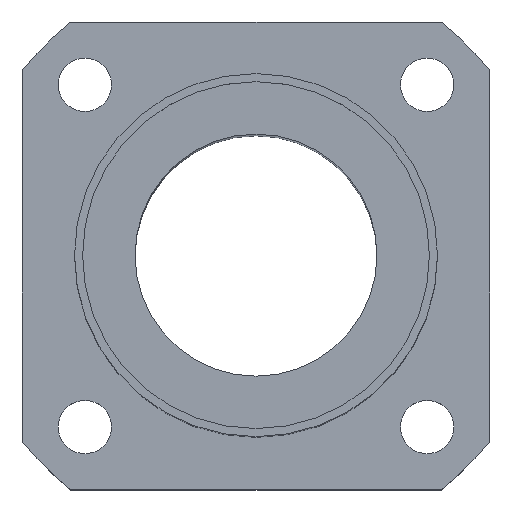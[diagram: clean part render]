
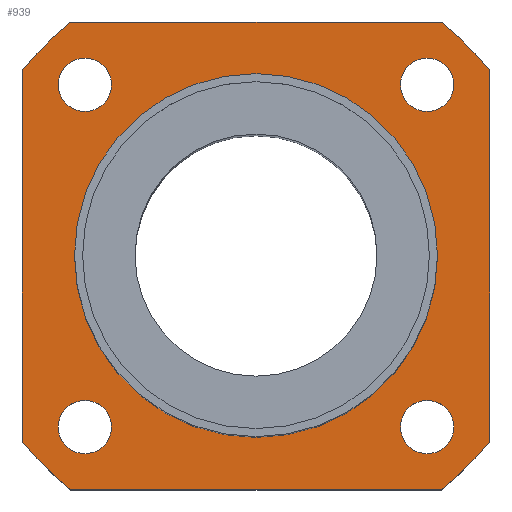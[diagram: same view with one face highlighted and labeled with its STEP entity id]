
A CAD part, top view. The second image highlights one B-rep face of the part: STEP entity #939.
In plain terms, the highlighted planar face has unit normal (0, 0, 1).
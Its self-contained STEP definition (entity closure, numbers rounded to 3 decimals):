
#49=CARTESIAN_POINT('',(-25.08,9.934,66.5));
#50=VERTEX_POINT('',#49);
#59=CARTESIAN_POINT('',(19.92,9.934,66.5));
#60=VERTEX_POINT('',#59);
#61=CARTESIAN_POINT('',(-2.58,9.934,66.5));
#62=DIRECTION('',(0.0,0.0,1.0));
#63=DIRECTION('',(-1.0,0.0,0.0));
#64=AXIS2_PLACEMENT_3D('',#61,#62,#63);
#65=CIRCLE('',#64,22.5);
#66=EDGE_CURVE('',#50,#60,#65,.T.);
#259=CARTESIAN_POINT('',(-20.493,31.147,66.5));
#260=VERTEX_POINT('',#259);
#269=CARTESIAN_POINT('',(-27.093,31.147,66.5));
#270=VERTEX_POINT('',#269);
#271=CARTESIAN_POINT('',(-23.793,31.147,66.5));
#272=DIRECTION('',(0.0,0.0,-1.0));
#273=DIRECTION('',(1.0,0.0,0.0));
#274=AXIS2_PLACEMENT_3D('',#271,#272,#273);
#275=CIRCLE('',#274,3.3);
#276=EDGE_CURVE('',#270,#260,#275,.T.);
#343=CARTESIAN_POINT('',(18.634,27.847,66.5));
#344=VERTEX_POINT('',#343);
#353=CARTESIAN_POINT('',(18.634,34.447,66.5));
#354=VERTEX_POINT('',#353);
#355=CARTESIAN_POINT('',(18.634,31.147,66.5));
#356=DIRECTION('',(0.0,0.0,-1.0));
#357=DIRECTION('',(0.0,-1.0,0.0));
#358=AXIS2_PLACEMENT_3D('',#355,#356,#357);
#359=CIRCLE('',#358,3.3);
#360=EDGE_CURVE('',#354,#344,#359,.T.);
#427=CARTESIAN_POINT('',(15.334,-11.279,66.5));
#428=VERTEX_POINT('',#427);
#437=CARTESIAN_POINT('',(21.934,-11.279,66.5));
#438=VERTEX_POINT('',#437);
#439=CARTESIAN_POINT('',(18.634,-11.279,66.5));
#440=DIRECTION('',(0.0,0.0,-1.0));
#441=DIRECTION('',(-1.0,0.0,0.0));
#442=AXIS2_PLACEMENT_3D('',#439,#440,#441);
#443=CIRCLE('',#442,3.3);
#444=EDGE_CURVE('',#438,#428,#443,.T.);
#511=CARTESIAN_POINT('',(-23.793,-7.979,66.5));
#512=VERTEX_POINT('',#511);
#521=CARTESIAN_POINT('',(-23.793,-14.579,66.5));
#522=VERTEX_POINT('',#521);
#523=CARTESIAN_POINT('',(-23.793,-11.279,66.5));
#524=DIRECTION('',(0.0,0.0,-1.0));
#525=DIRECTION('',(0.0,1.0,0.0));
#526=AXIS2_PLACEMENT_3D('',#523,#524,#525);
#527=CIRCLE('',#526,3.3);
#528=EDGE_CURVE('',#522,#512,#527,.T.);
#642=CARTESIAN_POINT('',(-23.793,-11.279,66.5));
#643=DIRECTION('',(0.0,0.0,-1.0));
#644=DIRECTION('',(0.0,1.0,0.0));
#645=AXIS2_PLACEMENT_3D('',#642,#643,#644);
#646=CIRCLE('',#645,3.3);
#647=EDGE_CURVE('',#512,#522,#646,.T.);
#704=CARTESIAN_POINT('',(18.634,-11.279,66.5));
#705=DIRECTION('',(0.0,0.0,-1.0));
#706=DIRECTION('',(-1.0,0.0,0.0));
#707=AXIS2_PLACEMENT_3D('',#704,#705,#706);
#708=CIRCLE('',#707,3.3);
#709=EDGE_CURVE('',#428,#438,#708,.T.);
#766=CARTESIAN_POINT('',(18.634,31.147,66.5));
#767=DIRECTION('',(0.0,0.0,-1.0));
#768=DIRECTION('',(0.0,-1.0,0.0));
#769=AXIS2_PLACEMENT_3D('',#766,#767,#768);
#770=CIRCLE('',#769,3.3);
#771=EDGE_CURVE('',#344,#354,#770,.T.);
#828=CARTESIAN_POINT('',(-23.793,31.147,66.5));
#829=DIRECTION('',(0.0,0.0,-1.0));
#830=DIRECTION('',(1.0,0.0,0.0));
#831=AXIS2_PLACEMENT_3D('',#828,#829,#830);
#832=CIRCLE('',#831,3.3);
#833=EDGE_CURVE('',#260,#270,#832,.T.);
#838=CARTESIAN_POINT('',(-2.58,9.934,66.5));
#839=DIRECTION('',(0.0,0.0,1.0));
#840=DIRECTION('',(1.0,0.0,0.0));
#841=AXIS2_PLACEMENT_3D('',#838,#839,#840);
#842=PLANE('',#841);
#843=CARTESIAN_POINT('',(20.399,-19.066,66.5));
#844=VERTEX_POINT('',#843);
#845=CARTESIAN_POINT('',(-25.558,-19.066,66.5));
#846=VERTEX_POINT('',#845);
#847=CARTESIAN_POINT('',(20.399,-19.066,66.5));
#848=DIRECTION('',(-1.0,0.0,0.0));
#849=VECTOR('',#848,45.957);
#850=LINE('',#847,#849);
#851=EDGE_CURVE('',#844,#846,#850,.T.);
#852=ORIENTED_EDGE('',*,*,#851,.F.);
#853=CARTESIAN_POINT('',(26.42,-13.044,66.5));
#854=VERTEX_POINT('',#853);
#855=CARTESIAN_POINT('',(-2.58,9.934,66.5));
#856=DIRECTION('',(0.0,0.0,-1.0));
#857=DIRECTION('',(-0.621,0.784,0.0));
#858=AXIS2_PLACEMENT_3D('',#855,#856,#857);
#859=CIRCLE('',#858,37.0);
#860=EDGE_CURVE('',#854,#844,#859,.T.);
#861=ORIENTED_EDGE('',*,*,#860,.F.);
#862=CARTESIAN_POINT('',(26.42,32.912,66.5));
#863=VERTEX_POINT('',#862);
#864=CARTESIAN_POINT('',(26.42,32.912,66.5));
#865=DIRECTION('',(0.0,-1.0,0.0));
#866=VECTOR('',#865,45.957);
#867=LINE('',#864,#866);
#868=EDGE_CURVE('',#863,#854,#867,.T.);
#869=ORIENTED_EDGE('',*,*,#868,.F.);
#870=CARTESIAN_POINT('',(20.399,38.934,66.5));
#871=VERTEX_POINT('',#870);
#872=CARTESIAN_POINT('',(-2.58,9.934,66.5));
#873=DIRECTION('',(0.0,0.0,-1.0));
#874=DIRECTION('',(-0.784,-0.621,0.0));
#875=AXIS2_PLACEMENT_3D('',#872,#873,#874);
#876=CIRCLE('',#875,37.0);
#877=EDGE_CURVE('',#871,#863,#876,.T.);
#878=ORIENTED_EDGE('',*,*,#877,.F.);
#879=CARTESIAN_POINT('',(-25.558,38.934,66.5));
#880=VERTEX_POINT('',#879);
#881=CARTESIAN_POINT('',(-25.558,38.934,66.5));
#882=DIRECTION('',(1.0,0.0,0.0));
#883=VECTOR('',#882,45.957);
#884=LINE('',#881,#883);
#885=EDGE_CURVE('',#880,#871,#884,.T.);
#886=ORIENTED_EDGE('',*,*,#885,.F.);
#887=CARTESIAN_POINT('',(-31.58,32.912,66.5));
#888=VERTEX_POINT('',#887);
#889=CARTESIAN_POINT('',(-2.58,9.934,66.5));
#890=DIRECTION('',(0.0,0.0,-1.0));
#891=DIRECTION('',(0.621,-0.784,0.0));
#892=AXIS2_PLACEMENT_3D('',#889,#890,#891);
#893=CIRCLE('',#892,37.0);
#894=EDGE_CURVE('',#888,#880,#893,.T.);
#895=ORIENTED_EDGE('',*,*,#894,.F.);
#896=CARTESIAN_POINT('',(-31.58,-13.044,66.5));
#897=VERTEX_POINT('',#896);
#898=CARTESIAN_POINT('',(-31.58,-13.044,66.5));
#899=DIRECTION('',(0.0,1.0,0.0));
#900=VECTOR('',#899,45.957);
#901=LINE('',#898,#900);
#902=EDGE_CURVE('',#897,#888,#901,.T.);
#903=ORIENTED_EDGE('',*,*,#902,.F.);
#904=CARTESIAN_POINT('',(-2.58,9.934,66.5));
#905=DIRECTION('',(0.0,0.0,-1.0));
#906=DIRECTION('',(0.784,0.621,0.0));
#907=AXIS2_PLACEMENT_3D('',#904,#905,#906);
#908=CIRCLE('',#907,37.0);
#909=EDGE_CURVE('',#846,#897,#908,.T.);
#910=ORIENTED_EDGE('',*,*,#909,.F.);
#911=EDGE_LOOP('',(#852,#861,#869,#878,#886,#895,#903,#910));
#912=FACE_OUTER_BOUND('',#911,.T.);
#913=ORIENTED_EDGE('',*,*,#528,.T.);
#914=ORIENTED_EDGE('',*,*,#647,.T.);
#915=EDGE_LOOP('',(#913,#914));
#916=FACE_BOUND('',#915,.T.);
#917=ORIENTED_EDGE('',*,*,#444,.T.);
#918=ORIENTED_EDGE('',*,*,#709,.T.);
#919=EDGE_LOOP('',(#917,#918));
#920=FACE_BOUND('',#919,.T.);
#921=ORIENTED_EDGE('',*,*,#360,.T.);
#922=ORIENTED_EDGE('',*,*,#771,.T.);
#923=EDGE_LOOP('',(#921,#922));
#924=FACE_BOUND('',#923,.T.);
#925=ORIENTED_EDGE('',*,*,#276,.T.);
#926=ORIENTED_EDGE('',*,*,#833,.T.);
#927=EDGE_LOOP('',(#925,#926));
#928=FACE_BOUND('',#927,.T.);
#929=CARTESIAN_POINT('',(-2.58,9.934,66.5));
#930=DIRECTION('',(0.0,0.0,1.0));
#931=DIRECTION('',(-1.0,0.0,0.0));
#932=AXIS2_PLACEMENT_3D('',#929,#930,#931);
#933=CIRCLE('',#932,22.5);
#934=EDGE_CURVE('',#60,#50,#933,.T.);
#935=ORIENTED_EDGE('',*,*,#934,.F.);
#936=ORIENTED_EDGE('',*,*,#66,.F.);
#937=EDGE_LOOP('',(#935,#936));
#938=FACE_BOUND('',#937,.T.);
#939=ADVANCED_FACE('',(#912,#916,#920,#924,#928,#938),#842,.T.);
